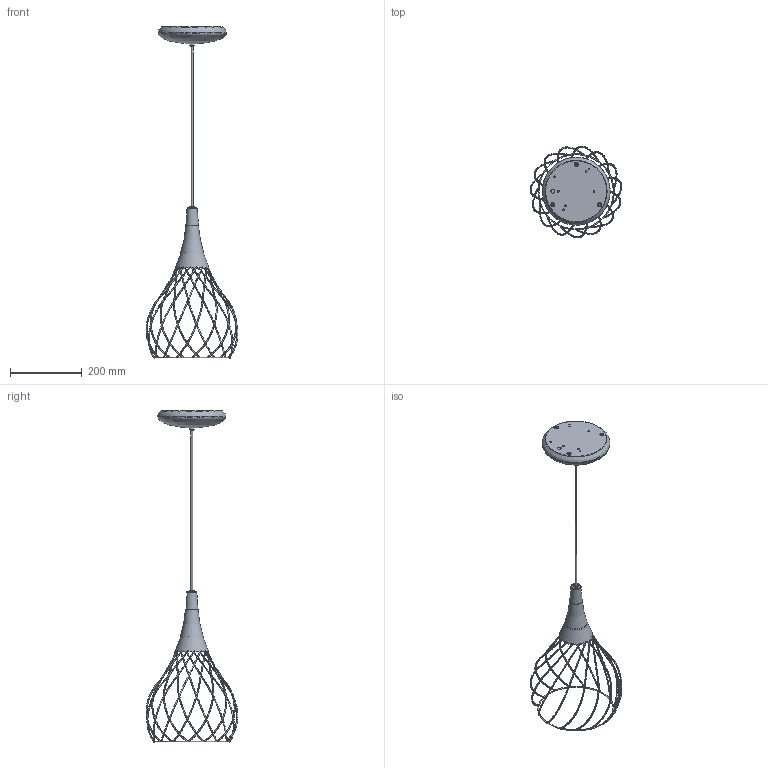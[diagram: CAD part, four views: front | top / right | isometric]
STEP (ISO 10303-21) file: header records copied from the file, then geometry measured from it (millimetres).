
FILE_DESCRIPTION( ( 'Unknown' ), '1' );
FILE_NAME( 'U:/LineaLight Articoli/PRODUZIONE/ARTICOLI/MONGOLFIER/8140-8141/8140-8141_3ds.stp', 'Unknown', ( 'LLTEC001' ), ( 'LINEA LIGHT' ), 'PSStep 17.0.49', 'Unknown', ' ' );
FILE_SCHEMA( ( 'AUTOMOTIVE_DESIGN { 1 0 10303 214 1 1 1 1 }' ) );
Length unit declared in the file: millimetre
Products named in the file (15): 153000176999_2; 153000176055_4; 153000176999_1; 153000176055_3; 153000176999; 152000265055; Assem1; 155000429055; 062000116359; 152000237055; 152000249055; 155000423055; G1625-3; Filo 1-oa0
Assembly tree (28 placements, depth 5):
  Assem1
    155000429055
    062000116359
    152000237055
    152000249055
    155000423055
    G1625-3
    Filo 1-oa0
    153000176999
      152000265055
      153000176999_1
        153000176055_3
        153000176055_3
        153000176999_2
          153000176055_4  x15
Bounding box: 255.82 x 255.62 x 924.93 mm (x, y, z)
Volume: 185613.1 mm3; surface area: 262630 mm2
Topology: 25 solids, 25 shells, 134 faces, 235 edges, 150 vertices
Faces by surface type: plane 49, cylinder 28, cone 20, torus 18, bspline 15, revolution 4
Full cylindrical faces by diameter (mm): 3.5 x2, 4 x1, 4.5 x4, 5 x7, 6.5 x1, 6.917 x1, 8.917 x1, 10 x2, 10.5 x3, 12 x1, 13 x1, 14 x1, 60 x1, 183 x1, 186 x1
Entity records: 4489 total; most frequent: CARTESIAN_POINT 1704, DIRECTION 438, AXIS2_PLACEMENT_3D 217, EDGE_LOOP 198, ORIENTED_EDGE 198, FACE_OUTER_BOUND 138, VERTEX_POINT 103, EDGE_CURVE 99
